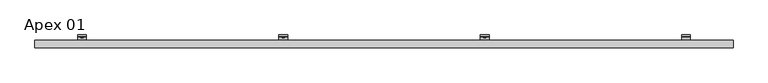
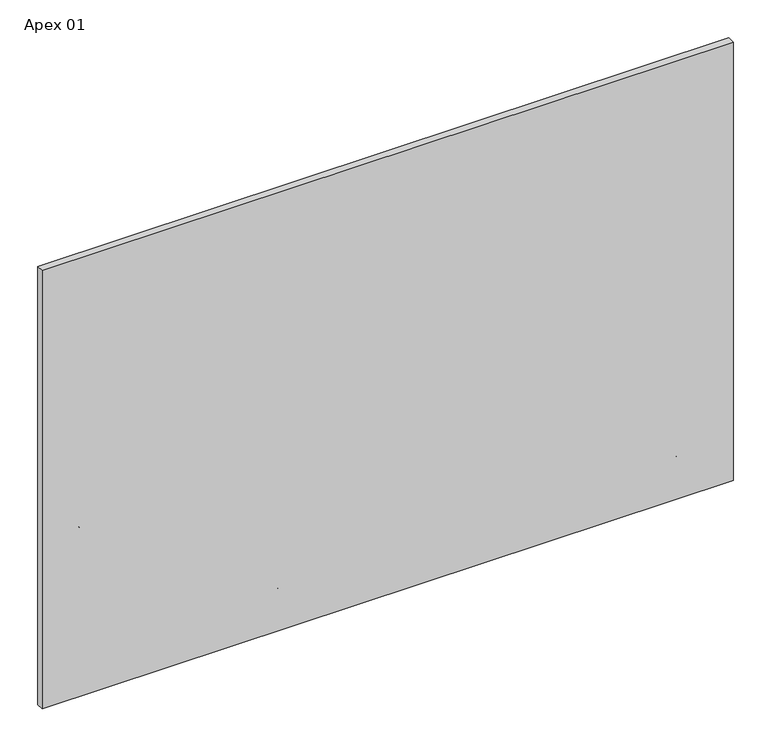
"""IFC4 building model written with IfcOpenShell, lengths in millimetres: plate geometry, Single-Panel-Perforated-Amico_Architectural : Apex 01."""

from ifc_helpers import new_model, si_unit, point, frame, frame_2d, origin, place, context, project, spatial, polyline, circle_curve, trimmed, segment, composite_curve, outline, extrude, source, transform, mapped, element, save
from ifc_brep_helpers import plane_surface, cylinder_surface, revolved_surface, advanced_brep


def apex_01_2c32b375(model_context):
    return source(origin(), model_context, "Body", "SolidModel", [
        advanced_brep(
        [(1285.875, -47.625, 742.6471875), (1285.875, -51.2819443, 734.985155), (1285.875, -89.5163624, 708.2131273), (1285.875, -92.9330442, 711.6298091), (1285.875, -54.3526876, 738.6440656), (1285.875, -52.4002, 742.6472583), (1285.875, -52.4002, 776.8398726), (1285.875, -47.625, 776.8398726), (1323.975, -47.625, 742.6471875), (1323.975, -47.625, 776.8398726), (1323.975, -52.4002, 776.8398726), (1323.975, -52.4002, 742.6472583), (1323.975, -54.3526876, 738.6440656), (1323.975, -92.9330442, 711.6298091), (1323.975, -89.5163624, 708.2131273), (1323.975, -51.2819443, 734.985155), (1311.6661889, -52.4002, 762.7946564), (1311.6661889, -52.4002, 756.4446564), (1295.4383287, -52.4002, 756.4446564), (1295.4383287, -52.4002, 762.7946564), (1311.6661889, -47.625, 756.4446564), (1311.6661889, -47.625, 762.7946564), (1295.4383287, -47.625, 762.7946564), (1295.4383287, -47.625, 756.4446564)],
        [
            (0, 1, circle_curve(frame((1285.875, -57.4802202, 742.6471875), z_axis=(-1.0, 0.0, 0.0), x_axis=(0.0, -1.0, 0.0)), 9.8552202)),
            (1, 2),
            (2, 3),
            (3, 4),
            (4, 5, circle_curve(frame((1285.875, -57.4803246, 742.6472583), z_axis=(1.0, 0.0, 0.0), x_axis=(0.0, -1.0, 0.0)), 5.0801246)),
            (5, 6),
            (6, 7),
            (7, 0),
            (8, 9),
            (9, 10),
            (10, 11),
            (11, 12, circle_curve(frame((1323.975, -57.4803246, 742.6472583), z_axis=(-1.0, 0.0, 0.0), x_axis=(0.0, -1.0, 0.0)), 5.0801246)),
            (12, 13),
            (13, 14),
            (14, 15),
            (15, 8, circle_curve(frame((1323.975, -57.4802202, 742.6471875), z_axis=(1.0, 0.0, 0.0), x_axis=(0.0, -1.0, 0.0)), 9.8552202)),
            (4, 12),
            (11, 5),
            (10, 6),
            (16, 17, circle_curve(frame((1311.6661889, -52.4002, 759.6196564), z_axis=(0.0, 1.0, 0.0), x_axis=(0.0, 0.0, -1.0)), 3.175)),
            (17, 18),
            (18, 19, circle_curve(frame((1295.4383287, -52.4002, 759.6196564), z_axis=(0.0, 1.0, 0.0), x_axis=(0.0, 0.0, -1.0)), 3.175)),
            (19, 16),
            (9, 7),
            (8, 0),
            (20, 21, circle_curve(frame((1311.6661889, -47.625, 759.6196564), z_axis=(0.0, -1.0, 0.0), x_axis=(0.0, 0.0, -1.0)), 3.175)),
            (21, 22),
            (22, 23, circle_curve(frame((1295.4383287, -47.625, 759.6196564), z_axis=(0.0, -1.0, 0.0), x_axis=(0.0, 0.0, -1.0)), 3.175)),
            (23, 20),
            (15, 1),
            (20, 17),
            (16, 21),
            (19, 22),
            (18, 23),
            (14, 2),
            (13, 3),
        ],
        [
            plane_surface(frame((1285.875, -67.3354404, 742.6471875), z_axis=(-1.0, 0.0, 0.0), x_axis=(0.0, 0.0, 1.0))),
            plane_surface(frame((1323.975, -67.3354404, 742.6471875), z_axis=(1.0, 0.0, 0.0), x_axis=(0.0, 0.0, -1.0))),
            revolved_surface(polyline([(1323.975, -62.5604492, 742.6472583), (1285.875, -62.5604492, 742.6472583)]), (1323.975, -57.4803246, 742.6472583), (1.0, 0.0, 0.0)),
            plane_surface(frame((1285.875, -52.4002, 742.6472583), z_axis=(0.0, -1.0, 0.0), x_axis=(1.0, 0.0, 0.0))),
            plane_surface(frame((1285.875, -52.4002, 776.8398726), z_axis=(0.0, 0.0, 1.0), x_axis=(1.0, 0.0, 0.0))),
            plane_surface(frame((1285.875, -47.625, 776.8398726), z_axis=(0.0, 1.0, 6.99569853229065e-12), x_axis=(1.0, 0.0, 0.0))),
            cylinder_surface(frame((1323.975, -57.4802202, 742.6471875), z_axis=(-1.0, 0.0, 0.0), x_axis=(0.0, -1.0, 0.0)), 9.8552202),
            revolved_surface(polyline([(1311.6661889, -52.4002, 756.4446564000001), (1311.6661889, -47.625, 756.4446564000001)]), (1311.6661889, -25.6669948, 759.6196564), (0.0, -1.0, 0.0)),
            plane_surface(frame((1311.6661889, -86.677982, 762.7946564), z_axis=(0.0, 0.0, -1.0), x_axis=(0.0, 1.0, 0.0))),
            revolved_surface(polyline([(1295.4383287, -52.4002, 756.4446564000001), (1295.4383287, -47.625, 756.4446564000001)]), (1295.4383287, -25.6669948, 759.6196564), (0.0, -1.0, 0.0)),
            plane_surface(frame((1295.4383287, -86.677982, 756.4446564), z_axis=(-2.7237733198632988e-11, 0.0, 1.0), x_axis=(0.0, 1.0, 0.0))),
            plane_surface(frame((1285.875, -51.2819443, 734.985155), z_axis=(0.0, 0.5735764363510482, -0.8191520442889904), x_axis=(1.0, 0.0, 0.0))),
            plane_surface(frame((1285.875, -89.5163624, 708.2131273), z_axis=(0.0, -0.7071067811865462, -0.7071067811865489), x_axis=(1.0, 0.0, 0.0))),
            plane_surface(frame((1285.875, -92.9330442, 711.6298091), z_axis=(0.0, -0.5735764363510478, 0.8191520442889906), x_axis=(1.0, 0.0, 0.0))),
        ],
        [
            (0, [[1, 2, 3, 4, 5, 6, 7, 8]]),
            (1, [[9, 10, 11, 12, 13, 14, 15, 16]]),
            (2, [[-5, 17, -12, 18]]),
            (3, [[-6, -18, -11, 19], [20, 21, 22, 23]]),
            (4, [[-7, -19, -10, 24]]),
            (5, [[-8, -24, -9, 25], [26, 27, 28, 29]]),
            (6, [[-1, -25, -16, 30]]),
            (7, [[31, -20, 32, -26]]),
            (8, [[-32, -23, 33, -27]]),
            (9, [[-33, -22, 34, -28]]),
            (10, [[-31, -29, -34, -21]]),
            (11, [[-2, -30, -15, 35]]),
            (12, [[-3, -35, -14, 36]]),
            (13, [[-4, -36, -13, -17]]),
        ],
    ),
        extrude(outline(polyline([(759.7964995, 429.9570034), (755.450787, 432.4660017), (755.450787, 437.4839983), (759.7964995, 439.9929966), (764.1422121, 437.4839983), (764.1422121, 432.4660017), (759.7964995, 429.9570034)])), frame((0.0, -58.7607779, 0.0), z_axis=(0.0, 1.0, 0.0), x_axis=(0.0, 0.0, 1.0)), (0.0, 0.0, 1.0), 11.1357779),
        extrude(outline(composite_curve([segment(trimmed(circle_curve(frame_2d((759.8898065, 434.975)), 6.35), [point((759.8898065, 441.325))], [point((759.8898065, 428.625))], False, "CARTESIAN"), True, "CONTINUOUS"), segment(trimmed(circle_curve(frame_2d((759.8898065, 434.975)), 6.35), [point((759.8898065, 428.625))], [point((759.8898065, 441.325))], False, "CARTESIAN"), True, "CONTINUOUS")], self_intersect=False)), frame((0.0, -57.0817743, 0.0), z_axis=(0.0, 1.0, 0.0), x_axis=(0.0, 0.0, 1.0)), (0.0, 0.0, 1.0), 9.4567743),
        advanced_brep(
        [(415.925, -47.625, 742.6471875), (415.925, -51.2819443, 734.985155), (415.925, -89.5163624, 708.2131273), (415.925, -92.9330442, 711.6298091), (415.925, -54.3526876, 738.6440656), (415.925, -52.4002, 742.6472583), (415.925, -52.4002, 776.8398726), (415.925, -47.625, 776.8398726), (454.025, -47.625, 742.6471875), (454.025, -47.625, 776.8398726), (454.025, -52.4002, 776.8398726), (454.025, -52.4002, 742.6472583), (454.025, -54.3526876, 738.6440656), (454.025, -92.9330442, 711.6298091), (454.025, -89.5163624, 708.2131273), (454.025, -51.2819443, 734.985155), (441.7161889, -52.4002, 762.7946564), (441.7161889, -52.4002, 756.4446564), (425.4883287, -52.4002, 756.4446564), (425.4883287, -52.4002, 762.7946564), (441.7161889, -47.625, 756.4446564), (441.7161889, -47.625, 762.7946564), (425.4883287, -47.625, 762.7946564), (425.4883287, -47.625, 756.4446564)],
        [
            (0, 1, circle_curve(frame((415.925, -57.4802202, 742.6471875), z_axis=(-1.0, 0.0, 0.0), x_axis=(0.0, -1.0, 0.0)), 9.8552202)),
            (1, 2),
            (2, 3),
            (3, 4),
            (4, 5, circle_curve(frame((415.925, -57.4803246, 742.6472583), z_axis=(1.0, 0.0, 0.0), x_axis=(0.0, -1.0, 0.0)), 5.0801246)),
            (5, 6),
            (6, 7),
            (7, 0),
            (8, 9),
            (9, 10),
            (10, 11),
            (11, 12, circle_curve(frame((454.025, -57.4803246, 742.6472583), z_axis=(-1.0, 0.0, 0.0), x_axis=(0.0, -1.0, 0.0)), 5.0801246)),
            (12, 13),
            (13, 14),
            (14, 15),
            (15, 8, circle_curve(frame((454.025, -57.4802202, 742.6471875), z_axis=(1.0, 0.0, 0.0), x_axis=(0.0, -1.0, 0.0)), 9.8552202)),
            (4, 12),
            (11, 5),
            (10, 6),
            (16, 17, circle_curve(frame((441.7161889, -52.4002, 759.6196564), z_axis=(0.0, 1.0, 0.0), x_axis=(0.0, 0.0, -1.0)), 3.175)),
            (17, 18),
            (18, 19, circle_curve(frame((425.4883287, -52.4002, 759.6196564), z_axis=(0.0, 1.0, 0.0), x_axis=(0.0, 0.0, -1.0)), 3.175)),
            (19, 16),
            (9, 7),
            (8, 0),
            (20, 21, circle_curve(frame((441.7161889, -47.625, 759.6196564), z_axis=(0.0, -1.0, 0.0), x_axis=(0.0, 0.0, -1.0)), 3.175)),
            (21, 22),
            (22, 23, circle_curve(frame((425.4883287, -47.625, 759.6196564), z_axis=(0.0, -1.0, 0.0), x_axis=(0.0, 0.0, -1.0)), 3.175)),
            (23, 20),
            (15, 1),
            (20, 17),
            (16, 21),
            (19, 22),
            (18, 23),
            (14, 2),
            (13, 3),
        ],
        [
            plane_surface(frame((415.925, -67.3354404, 742.6471875), z_axis=(-1.0, 0.0, 0.0), x_axis=(0.0, 0.0, 1.0))),
            plane_surface(frame((454.025, -67.3354404, 742.6471875), z_axis=(1.0, 0.0, 0.0), x_axis=(0.0, 0.0, -1.0))),
            revolved_surface(polyline([(454.025, -62.5604492, 742.6472583), (415.925, -62.5604492, 742.6472583)]), (454.025, -57.4803246, 742.6472583), (1.0, 0.0, 0.0)),
            plane_surface(frame((415.925, -52.4002, 742.6472583), z_axis=(0.0, -1.0, 0.0), x_axis=(1.0, 0.0, 0.0))),
            plane_surface(frame((415.925, -52.4002, 776.8398726), z_axis=(0.0, 0.0, 1.0), x_axis=(1.0, 0.0, 0.0))),
            plane_surface(frame((415.925, -47.625, 776.8398726), z_axis=(0.0, 1.0, 6.99569853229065e-12), x_axis=(1.0, 0.0, 0.0))),
            cylinder_surface(frame((454.025, -57.4802202, 742.6471875), z_axis=(-1.0, 0.0, 0.0), x_axis=(0.0, -1.0, 0.0)), 9.8552202),
            revolved_surface(polyline([(441.7161889, -52.4002, 756.4446564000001), (441.7161889, -47.625, 756.4446564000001)]), (441.7161889, -25.6669948, 759.6196564), (0.0, -1.0, 0.0)),
            plane_surface(frame((441.7161889, -86.677982, 762.7946564), z_axis=(0.0, 0.0, -1.0), x_axis=(0.0, 1.0, 0.0))),
            revolved_surface(polyline([(425.4883287, -52.4002, 756.4446564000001), (425.4883287, -47.625, 756.4446564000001)]), (425.4883287, -25.6669948, 759.6196564), (0.0, -1.0, 0.0)),
            plane_surface(frame((425.4883287, -86.677982, 756.4446564), z_axis=(-2.7237733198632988e-11, 0.0, 1.0), x_axis=(0.0, 1.0, 0.0))),
            plane_surface(frame((415.925, -51.2819443, 734.985155), z_axis=(0.0, 0.5735764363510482, -0.8191520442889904), x_axis=(1.0, 0.0, 0.0))),
            plane_surface(frame((415.925, -89.5163624, 708.2131273), z_axis=(0.0, -0.7071067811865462, -0.7071067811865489), x_axis=(1.0, 0.0, 0.0))),
            plane_surface(frame((415.925, -92.9330442, 711.6298091), z_axis=(0.0, -0.5735764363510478, 0.8191520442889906), x_axis=(1.0, 0.0, 0.0))),
        ],
        [
            (0, [[1, 2, 3, 4, 5, 6, 7, 8]]),
            (1, [[9, 10, 11, 12, 13, 14, 15, 16]]),
            (2, [[-5, 17, -12, 18]]),
            (3, [[-6, -18, -11, 19], [20, 21, 22, 23]]),
            (4, [[-7, -19, -10, 24]]),
            (5, [[-8, -24, -9, 25], [26, 27, 28, 29]]),
            (6, [[-1, -25, -16, 30]]),
            (7, [[31, -20, 32, -26]]),
            (8, [[-32, -23, 33, -27]]),
            (9, [[-33, -22, 34, -28]]),
            (10, [[-31, -29, -34, -21]]),
            (11, [[-2, -30, -15, 35]]),
            (12, [[-3, -35, -14, 36]]),
            (13, [[-4, -36, -13, -17]]),
        ],
    ),
        extrude(outline(polyline([(759.7964995, -439.9929966), (755.450787, -437.4839983), (755.450787, -432.4660017), (759.7964995, -429.9570034), (764.1422121, -432.4660017), (764.1422121, -437.4839983), (759.7964995, -439.9929966)])), frame((0.0, -58.7607779, 0.0), z_axis=(0.0, 1.0, 0.0), x_axis=(0.0, 0.0, 1.0)), (0.0, 0.0, 1.0), 11.1357779),
        extrude(outline(composite_curve([segment(trimmed(circle_curve(frame_2d((759.8898065, -434.975)), 6.35), [point((759.8898065, -428.625))], [point((759.8898065, -441.325))], False, "CARTESIAN"), True, "CONTINUOUS"), segment(trimmed(circle_curve(frame_2d((759.8898065, -434.975)), 6.35), [point((759.8898065, -441.325))], [point((759.8898065, -428.625))], False, "CARTESIAN"), True, "CONTINUOUS")], self_intersect=False)), frame((0.0, -57.0817743, 0.0), z_axis=(0.0, 1.0, 0.0), x_axis=(0.0, 0.0, 1.0)), (0.0, 0.0, 1.0), 9.4567743),
        advanced_brep(
        [(-454.025, -47.625, 742.6471875), (-454.025, -51.2819443, 734.985155), (-454.025, -89.5163624, 708.2131273), (-454.025, -92.9330442, 711.6298091), (-454.025, -54.3526876, 738.6440656), (-454.025, -52.4002, 742.6472583), (-454.025, -52.4002, 776.8398726), (-454.025, -47.625, 776.8398726), (-415.925, -47.625, 742.6471875), (-415.925, -47.625, 776.8398726), (-415.925, -52.4002, 776.8398726), (-415.925, -52.4002, 742.6472583), (-415.925, -54.3526876, 738.6440656), (-415.925, -92.9330442, 711.6298091), (-415.925, -89.5163624, 708.2131273), (-415.925, -51.2819443, 734.985155), (-428.2338111, -52.4002, 762.7946564), (-428.2338111, -52.4002, 756.4446564), (-444.4616713, -52.4002, 756.4446564), (-444.4616713, -52.4002, 762.7946564), (-428.2338111, -47.625, 756.4446564), (-428.2338111, -47.625, 762.7946564), (-444.4616713, -47.625, 762.7946564), (-444.4616713, -47.625, 756.4446564)],
        [
            (0, 1, circle_curve(frame((-454.025, -57.4802202, 742.6471875), z_axis=(-1.0, 0.0, 0.0), x_axis=(0.0, -1.0, 0.0)), 9.8552202)),
            (1, 2),
            (2, 3),
            (3, 4),
            (4, 5, circle_curve(frame((-454.025, -57.4803246, 742.6472583), z_axis=(1.0, 0.0, 0.0), x_axis=(0.0, -1.0, 0.0)), 5.0801246)),
            (5, 6),
            (6, 7),
            (7, 0),
            (8, 9),
            (9, 10),
            (10, 11),
            (11, 12, circle_curve(frame((-415.925, -57.4803246, 742.6472583), z_axis=(-1.0, 0.0, 0.0), x_axis=(0.0, -1.0, 0.0)), 5.0801246)),
            (12, 13),
            (13, 14),
            (14, 15),
            (15, 8, circle_curve(frame((-415.925, -57.4802202, 742.6471875), z_axis=(1.0, 0.0, 0.0), x_axis=(0.0, -1.0, 0.0)), 9.8552202)),
            (4, 12),
            (11, 5),
            (10, 6),
            (16, 17, circle_curve(frame((-428.2338111, -52.4002, 759.6196564), z_axis=(0.0, 1.0, 0.0), x_axis=(0.0, 0.0, -1.0)), 3.175)),
            (17, 18),
            (18, 19, circle_curve(frame((-444.4616713, -52.4002, 759.6196564), z_axis=(0.0, 1.0, 0.0), x_axis=(0.0, 0.0, -1.0)), 3.175)),
            (19, 16),
            (9, 7),
            (8, 0),
            (20, 21, circle_curve(frame((-428.2338111, -47.625, 759.6196564), z_axis=(0.0, -1.0, 0.0), x_axis=(0.0, 0.0, -1.0)), 3.175)),
            (21, 22),
            (22, 23, circle_curve(frame((-444.4616713, -47.625, 759.6196564), z_axis=(0.0, -1.0, 0.0), x_axis=(0.0, 0.0, -1.0)), 3.175)),
            (23, 20),
            (15, 1),
            (20, 17),
            (16, 21),
            (19, 22),
            (18, 23),
            (14, 2),
            (13, 3),
        ],
        [
            plane_surface(frame((-454.025, -67.3354404, 742.6471875), z_axis=(-1.0, 0.0, 0.0), x_axis=(0.0, 0.0, 1.0))),
            plane_surface(frame((-415.925, -67.3354404, 742.6471875), z_axis=(1.0, 0.0, 0.0), x_axis=(0.0, 0.0, -1.0))),
            revolved_surface(polyline([(-415.925, -62.5604492, 742.6472583), (-454.025, -62.5604492, 742.6472583)]), (-415.925, -57.4803246, 742.6472583), (1.0, 0.0, 0.0)),
            plane_surface(frame((-454.025, -52.4002, 742.6472583), z_axis=(0.0, -1.0, 0.0), x_axis=(1.0, 0.0, 0.0))),
            plane_surface(frame((-454.025, -52.4002, 776.8398726), z_axis=(0.0, 0.0, 1.0), x_axis=(1.0, 0.0, 0.0))),
            plane_surface(frame((-454.025, -47.625, 776.8398726), z_axis=(0.0, 1.0, 6.99569853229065e-12), x_axis=(1.0, 0.0, 0.0))),
            cylinder_surface(frame((-415.925, -57.4802202, 742.6471875), z_axis=(-1.0, 0.0, 0.0), x_axis=(0.0, -1.0, 0.0)), 9.8552202),
            revolved_surface(polyline([(-428.2338111, -52.4002, 756.4446564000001), (-428.2338111, -47.625, 756.4446564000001)]), (-428.2338111, -25.6669948, 759.6196564), (0.0, -1.0, 0.0)),
            plane_surface(frame((-428.2338111, -86.677982, 762.7946564), z_axis=(0.0, 0.0, -1.0), x_axis=(0.0, 1.0, 0.0))),
            revolved_surface(polyline([(-444.4616713, -52.4002, 756.4446564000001), (-444.4616713, -47.625, 756.4446564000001)]), (-444.4616713, -25.6669948, 759.6196564), (0.0, -1.0, 0.0)),
            plane_surface(frame((-444.4616713, -86.677982, 756.4446564), z_axis=(-2.7237733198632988e-11, 0.0, 1.0), x_axis=(0.0, 1.0, 0.0))),
            plane_surface(frame((-454.025, -51.2819443, 734.985155), z_axis=(0.0, 0.5735764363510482, -0.8191520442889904), x_axis=(1.0, 0.0, 0.0))),
            plane_surface(frame((-454.025, -89.5163624, 708.2131273), z_axis=(0.0, -0.7071067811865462, -0.7071067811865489), x_axis=(1.0, 0.0, 0.0))),
            plane_surface(frame((-454.025, -92.9330442, 711.6298091), z_axis=(0.0, -0.5735764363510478, 0.8191520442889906), x_axis=(1.0, 0.0, 0.0))),
        ],
        [
            (0, [[1, 2, 3, 4, 5, 6, 7, 8]]),
            (1, [[9, 10, 11, 12, 13, 14, 15, 16]]),
            (2, [[-5, 17, -12, 18]]),
            (3, [[-6, -18, -11, 19], [20, 21, 22, 23]]),
            (4, [[-7, -19, -10, 24]]),
            (5, [[-8, -24, -9, 25], [26, 27, 28, 29]]),
            (6, [[-1, -25, -16, 30]]),
            (7, [[31, -20, 32, -26]]),
            (8, [[-32, -23, 33, -27]]),
            (9, [[-33, -22, 34, -28]]),
            (10, [[-31, -29, -34, -21]]),
            (11, [[-2, -30, -15, 35]]),
            (12, [[-3, -35, -14, 36]]),
            (13, [[-4, -36, -13, -17]]),
        ],
    ),
        extrude(outline(polyline([(759.7964995, -1309.9429966), (755.450787, -1307.4339983), (755.450787, -1302.4160017), (759.7964995, -1299.9070034), (764.1422121, -1302.4160017), (764.1422121, -1307.4339983), (759.7964995, -1309.9429966)])), frame((0.0, -58.7607779, 0.0), z_axis=(0.0, 1.0, 0.0), x_axis=(0.0, 0.0, 1.0)), (0.0, 0.0, 1.0), 11.1357779),
        extrude(outline(composite_curve([segment(trimmed(circle_curve(frame_2d((759.8898065, -1304.925)), 6.35), [point((759.8898065, -1298.575))], [point((759.8898065, -1311.275))], False, "CARTESIAN"), True, "CONTINUOUS"), segment(trimmed(circle_curve(frame_2d((759.8898065, -1304.925)), 6.35), [point((759.8898065, -1311.275))], [point((759.8898065, -1298.575))], False, "CARTESIAN"), True, "CONTINUOUS")], self_intersect=False)), frame((0.0, -57.0817743, 0.0), z_axis=(0.0, 1.0, 0.0), x_axis=(0.0, 0.0, 1.0)), (0.0, 0.0, 1.0), 9.4567743),
        advanced_brep(
        [(-1323.975, -47.625, 742.6471875), (-1323.975, -51.2819443, 734.985155), (-1323.975, -89.5163624, 708.2131273), (-1323.975, -92.9330442, 711.6298091), (-1323.975, -54.3526876, 738.6440656), (-1323.975, -52.4002, 742.6472583), (-1323.975, -52.4002, 776.8398726), (-1323.975, -47.625, 776.8398726), (-1285.875, -47.625, 742.6471875), (-1285.875, -47.625, 776.8398726), (-1285.875, -52.4002, 776.8398726), (-1285.875, -52.4002, 742.6472583), (-1285.875, -54.3526876, 738.6440656), (-1285.875, -92.9330442, 711.6298091), (-1285.875, -89.5163624, 708.2131273), (-1285.875, -51.2819443, 734.985155), (-1298.1838111, -52.4002, 762.7946564), (-1298.1838111, -52.4002, 756.4446564), (-1314.4116713, -52.4002, 756.4446564), (-1314.4116713, -52.4002, 762.7946564), (-1298.1838111, -47.625, 756.4446564), (-1298.1838111, -47.625, 762.7946564), (-1314.4116713, -47.625, 762.7946564), (-1314.4116713, -47.625, 756.4446564)],
        [
            (0, 1, circle_curve(frame((-1323.975, -57.4802202, 742.6471875), z_axis=(-1.0, 0.0, 0.0), x_axis=(0.0, -1.0, 0.0)), 9.8552202)),
            (1, 2),
            (2, 3),
            (3, 4),
            (4, 5, circle_curve(frame((-1323.975, -57.4803246, 742.6472583), z_axis=(1.0, 0.0, 0.0), x_axis=(0.0, -1.0, 0.0)), 5.0801246)),
            (5, 6),
            (6, 7),
            (7, 0),
            (8, 9),
            (9, 10),
            (10, 11),
            (11, 12, circle_curve(frame((-1285.875, -57.4803246, 742.6472583), z_axis=(-1.0, 0.0, 0.0), x_axis=(0.0, -1.0, 0.0)), 5.0801246)),
            (12, 13),
            (13, 14),
            (14, 15),
            (15, 8, circle_curve(frame((-1285.875, -57.4802202, 742.6471875), z_axis=(1.0, 0.0, 0.0), x_axis=(0.0, -1.0, 0.0)), 9.8552202)),
            (4, 12),
            (11, 5),
            (10, 6),
            (16, 17, circle_curve(frame((-1298.1838111, -52.4002, 759.6196564), z_axis=(0.0, 1.0, 0.0), x_axis=(0.0, 0.0, -1.0)), 3.175)),
            (17, 18),
            (18, 19, circle_curve(frame((-1314.4116713, -52.4002, 759.6196564), z_axis=(0.0, 1.0, 0.0), x_axis=(0.0, 0.0, -1.0)), 3.175)),
            (19, 16),
            (9, 7),
            (8, 0),
            (20, 21, circle_curve(frame((-1298.1838111, -47.625, 759.6196564), z_axis=(0.0, -1.0, 0.0), x_axis=(0.0, 0.0, -1.0)), 3.175)),
            (21, 22),
            (22, 23, circle_curve(frame((-1314.4116713, -47.625, 759.6196564), z_axis=(0.0, -1.0, 0.0), x_axis=(0.0, 0.0, -1.0)), 3.175)),
            (23, 20),
            (15, 1),
            (20, 17),
            (16, 21),
            (19, 22),
            (18, 23),
            (14, 2),
            (13, 3),
        ],
        [
            plane_surface(frame((-1323.975, -67.3354404, 742.6471875), z_axis=(-1.0, 0.0, 0.0), x_axis=(0.0, 0.0, 1.0))),
            plane_surface(frame((-1285.875, -67.3354404, 742.6471875), z_axis=(1.0, 0.0, 0.0), x_axis=(0.0, 0.0, -1.0))),
            revolved_surface(polyline([(-1285.875, -62.5604492, 742.6472583), (-1323.975, -62.5604492, 742.6472583)]), (-1285.875, -57.4803246, 742.6472583), (1.0, 0.0, 0.0)),
            plane_surface(frame((-1323.975, -52.4002, 742.6472583), z_axis=(0.0, -1.0, 0.0), x_axis=(1.0, 0.0, 0.0))),
            plane_surface(frame((-1323.975, -52.4002, 776.8398726), z_axis=(0.0, 0.0, 1.0), x_axis=(1.0, 0.0, 0.0))),
            plane_surface(frame((-1323.975, -47.625, 776.8398726), z_axis=(0.0, 1.0, 6.99569853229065e-12), x_axis=(1.0, 0.0, 0.0))),
            cylinder_surface(frame((-1285.875, -57.4802202, 742.6471875), z_axis=(-1.0, 0.0, 0.0), x_axis=(0.0, -1.0, 0.0)), 9.8552202),
            revolved_surface(polyline([(-1298.1838111, -52.4002, 756.4446564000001), (-1298.1838111, -47.625, 756.4446564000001)]), (-1298.1838111, -25.6669948, 759.6196564), (0.0, -1.0, 0.0)),
            plane_surface(frame((-1298.1838111, -86.677982, 762.7946564), z_axis=(0.0, 0.0, -1.0), x_axis=(0.0, 1.0, 0.0))),
            revolved_surface(polyline([(-1314.4116713, -52.4002, 756.4446564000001), (-1314.4116713, -47.625, 756.4446564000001)]), (-1314.4116713, -25.6669948, 759.6196564), (0.0, -1.0, 0.0)),
            plane_surface(frame((-1314.4116713, -86.677982, 756.4446564), z_axis=(-2.7237733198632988e-11, 0.0, 1.0), x_axis=(0.0, 1.0, 0.0))),
            plane_surface(frame((-1323.975, -51.2819443, 734.985155), z_axis=(0.0, 0.5735764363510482, -0.8191520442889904), x_axis=(1.0, 0.0, 0.0))),
            plane_surface(frame((-1323.975, -89.5163624, 708.2131273), z_axis=(0.0, -0.7071067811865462, -0.7071067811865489), x_axis=(1.0, 0.0, 0.0))),
            plane_surface(frame((-1323.975, -92.9330442, 711.6298091), z_axis=(0.0, -0.5735764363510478, 0.8191520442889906), x_axis=(1.0, 0.0, 0.0))),
        ],
        [
            (0, [[1, 2, 3, 4, 5, 6, 7, 8]]),
            (1, [[9, 10, 11, 12, 13, 14, 15, 16]]),
            (2, [[-5, 17, -12, 18]]),
            (3, [[-6, -18, -11, 19], [20, 21, 22, 23]]),
            (4, [[-7, -19, -10, 24]]),
            (5, [[-8, -24, -9, 25], [26, 27, 28, 29]]),
            (6, [[-1, -25, -16, 30]]),
            (7, [[31, -20, 32, -26]]),
            (8, [[-32, -23, 33, -27]]),
            (9, [[-33, -22, 34, -28]]),
            (10, [[-31, -29, -34, -21]]),
            (11, [[-2, -30, -15, 35]]),
            (12, [[-3, -35, -14, 36]]),
            (13, [[-4, -36, -13, -17]]),
        ],
    ),
        extrude(outline(polyline([(169.8795323, 1299.9070034), (165.5338197, 1302.4160017), (165.5338197, 1307.4339983), (169.8795323, 1309.9429966), (174.2252448, 1307.4339983), (174.2252448, 1302.4160017), (169.8795323, 1299.9070034)])), frame((0.0, -58.7607779, 0.0), z_axis=(0.0, 1.0, 0.0), x_axis=(0.0, 0.0, 1.0)), (0.0, 0.0, 1.0), 11.1357779),
        extrude(outline(composite_curve([segment(trimmed(circle_curve(frame_2d((169.9728392, 1304.925)), 6.35), [point((169.9728392, 1311.275))], [point((169.9728392, 1298.575))], False, "CARTESIAN"), True, "CONTINUOUS"), segment(trimmed(circle_curve(frame_2d((169.9728392, 1304.925)), 6.35), [point((169.9728392, 1298.575))], [point((169.9728392, 1311.275))], False, "CARTESIAN"), True, "CONTINUOUS")], self_intersect=False)), frame((0.0, -57.0817743, 0.0), z_axis=(0.0, 1.0, 0.0), x_axis=(0.0, 0.0, 1.0)), (0.0, 0.0, 1.0), 9.4567743),
        advanced_brep(
        [(1285.875, -47.625, 152.7302202), (1285.875, -51.2819443, 145.0681877), (1285.875, -89.5163624, 118.29616), (1285.875, -92.9330442, 121.7128418), (1285.875, -54.3526876, 148.7270983), (1285.875, -52.4002, 152.7302911), (1285.875, -52.4002, 186.9229053), (1285.875, -47.625, 186.9229053), (1323.975, -47.625, 152.7302202), (1323.975, -47.625, 186.9229053), (1323.975, -52.4002, 186.9229053), (1323.975, -52.4002, 152.7302911), (1323.975, -54.3526876, 148.7270983), (1323.975, -92.9330442, 121.7128418), (1323.975, -89.5163624, 118.29616), (1323.975, -51.2819443, 145.0681877), (1311.6661889, -52.4002, 172.8776891), (1311.6661889, -52.4002, 166.5276891), (1295.4383287, -52.4002, 166.5276891), (1295.4383287, -52.4002, 172.8776891), (1311.6661889, -47.625, 166.5276891), (1311.6661889, -47.625, 172.8776891), (1295.4383287, -47.625, 172.8776891), (1295.4383287, -47.625, 166.5276891)],
        [
            (0, 1, circle_curve(frame((1285.875, -57.4802202, 152.7302202), z_axis=(-1.0, 0.0, 0.0), x_axis=(0.0, -1.0, 0.0)), 9.8552202)),
            (1, 2),
            (2, 3),
            (3, 4),
            (4, 5, circle_curve(frame((1285.875, -57.4803246, 152.7302911), z_axis=(1.0, 0.0, 0.0), x_axis=(0.0, -1.0, 0.0)), 5.0801246)),
            (5, 6),
            (6, 7),
            (7, 0),
            (8, 9),
            (9, 10),
            (10, 11),
            (11, 12, circle_curve(frame((1323.975, -57.4803246, 152.7302911), z_axis=(-1.0, 0.0, 0.0), x_axis=(0.0, -1.0, 0.0)), 5.0801246)),
            (12, 13),
            (13, 14),
            (14, 15),
            (15, 8, circle_curve(frame((1323.975, -57.4802202, 152.7302202), z_axis=(1.0, 0.0, 0.0), x_axis=(0.0, -1.0, 0.0)), 9.8552202)),
            (4, 12),
            (11, 5),
            (10, 6),
            (16, 17, circle_curve(frame((1311.6661889, -52.4002, 169.7026891), z_axis=(0.0, 1.0, 0.0), x_axis=(0.0, 0.0, -1.0)), 3.175)),
            (17, 18),
            (18, 19, circle_curve(frame((1295.4383287, -52.4002, 169.7026891), z_axis=(0.0, 1.0, 0.0), x_axis=(0.0, 0.0, -1.0)), 3.175)),
            (19, 16),
            (9, 7),
            (8, 0),
            (20, 21, circle_curve(frame((1311.6661889, -47.625, 169.7026891), z_axis=(0.0, -1.0, 0.0), x_axis=(0.0, 0.0, -1.0)), 3.175)),
            (21, 22),
            (22, 23, circle_curve(frame((1295.4383287, -47.625, 169.7026891), z_axis=(0.0, -1.0, 0.0), x_axis=(0.0, 0.0, -1.0)), 3.175)),
            (23, 20),
            (15, 1),
            (20, 17),
            (16, 21),
            (19, 22),
            (18, 23),
            (14, 2),
            (13, 3),
        ],
        [
            plane_surface(frame((1285.875, -67.3354404, 152.7302202), z_axis=(-1.0, 0.0, 0.0), x_axis=(0.0, 0.0, 1.0))),
            plane_surface(frame((1323.975, -67.3354404, 152.7302202), z_axis=(1.0, 0.0, 0.0), x_axis=(0.0, 0.0, -1.0))),
            revolved_surface(polyline([(1323.975, -62.5604492, 152.7302911), (1285.875, -62.5604492, 152.7302911)]), (1323.975, -57.4803246, 152.7302911), (1.0, 0.0, 0.0)),
            plane_surface(frame((1285.875, -52.4002, 152.7302911), z_axis=(0.0, -1.0, 0.0), x_axis=(1.0, 0.0, 0.0))),
            plane_surface(frame((1285.875, -52.4002, 186.9229053), z_axis=(0.0, 0.0, 1.0), x_axis=(1.0, 0.0, 0.0))),
            plane_surface(frame((1285.875, -47.625, 186.9229053), z_axis=(0.0, 1.0, 6.99569853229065e-12), x_axis=(1.0, 0.0, 0.0))),
            cylinder_surface(frame((1323.975, -57.4802202, 152.7302202), z_axis=(-1.0, 0.0, 0.0), x_axis=(0.0, -1.0, 0.0)), 9.8552202),
            revolved_surface(polyline([(1311.6661889, -52.4002, 166.52768909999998), (1311.6661889, -47.625, 166.52768909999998)]), (1311.6661889, -25.6669948, 169.7026891), (0.0, -1.0, 0.0)),
            plane_surface(frame((1311.6661889, -86.677982, 172.8776891), z_axis=(0.0, 0.0, -1.0), x_axis=(0.0, 1.0, 0.0))),
            revolved_surface(polyline([(1295.4383287, -52.4002, 166.52768909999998), (1295.4383287, -47.625, 166.52768909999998)]), (1295.4383287, -25.6669948, 169.7026891), (0.0, -1.0, 0.0)),
            plane_surface(frame((1295.4383287, -86.677982, 166.5276891), z_axis=(-2.723774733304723e-11, 0.0, 1.0), x_axis=(0.0, 1.0, 0.0))),
            plane_surface(frame((1285.875, -51.2819443, 145.0681877), z_axis=(0.0, 0.5735764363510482, -0.8191520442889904), x_axis=(1.0, 0.0, 0.0))),
            plane_surface(frame((1285.875, -89.5163624, 118.29616), z_axis=(0.0, -0.7071067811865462, -0.7071067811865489), x_axis=(1.0, 0.0, 0.0))),
            plane_surface(frame((1285.875, -92.9330442, 121.7128418), z_axis=(0.0, -0.5735764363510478, 0.8191520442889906), x_axis=(1.0, 0.0, 0.0))),
        ],
        [
            (0, [[1, 2, 3, 4, 5, 6, 7, 8]]),
            (1, [[9, 10, 11, 12, 13, 14, 15, 16]]),
            (2, [[-5, 17, -12, 18]]),
            (3, [[-6, -18, -11, 19], [20, 21, 22, 23]]),
            (4, [[-7, -19, -10, 24]]),
            (5, [[-8, -24, -9, 25], [26, 27, 28, 29]]),
            (6, [[-1, -25, -16, 30]]),
            (7, [[31, -20, 32, -26]]),
            (8, [[-32, -23, 33, -27]]),
            (9, [[-33, -22, 34, -28]]),
            (10, [[-31, -29, -34, -21]]),
            (11, [[-2, -30, -15, 35]]),
            (12, [[-3, -35, -14, 36]]),
            (13, [[-4, -36, -13, -17]]),
        ],
    ),
        extrude(outline(polyline([(169.8795323, 429.9570034), (165.5338197, 432.4660017), (165.5338197, 437.4839983), (169.8795323, 439.9929966), (174.2252448, 437.4839983), (174.2252448, 432.4660017), (169.8795323, 429.9570034)])), frame((0.0, -58.7607779, 0.0), z_axis=(0.0, 1.0, 0.0), x_axis=(0.0, 0.0, 1.0)), (0.0, 0.0, 1.0), 11.1357779),
        extrude(outline(composite_curve([segment(trimmed(circle_curve(frame_2d((169.9728392, 434.975)), 6.35), [point((169.9728392, 441.325))], [point((169.9728392, 428.625))], False, "CARTESIAN"), True, "CONTINUOUS"), segment(trimmed(circle_curve(frame_2d((169.9728392, 434.975)), 6.35), [point((169.9728392, 428.625))], [point((169.9728392, 441.325))], False, "CARTESIAN"), True, "CONTINUOUS")], self_intersect=False)), frame((0.0, -57.0817743, 0.0), z_axis=(0.0, 1.0, 0.0), x_axis=(0.0, 0.0, 1.0)), (0.0, 0.0, 1.0), 9.4567743),
        advanced_brep(
        [(415.925, -47.625, 152.7302202), (415.925, -51.2819443, 145.0681877), (415.925, -89.5163624, 118.29616), (415.925, -92.9330442, 121.7128418), (415.925, -54.3526876, 148.7270983), (415.925, -52.4002, 152.7302911), (415.925, -52.4002, 186.9229053), (415.925, -47.625, 186.9229053), (454.025, -47.625, 152.7302202), (454.025, -47.625, 186.9229053), (454.025, -52.4002, 186.9229053), (454.025, -52.4002, 152.7302911), (454.025, -54.3526876, 148.7270983), (454.025, -92.9330442, 121.7128418), (454.025, -89.5163624, 118.29616), (454.025, -51.2819443, 145.0681877), (441.7161889, -52.4002, 172.8776891), (441.7161889, -52.4002, 166.5276891), (425.4883287, -52.4002, 166.5276891), (425.4883287, -52.4002, 172.8776891), (441.7161889, -47.625, 166.5276891), (441.7161889, -47.625, 172.8776891), (425.4883287, -47.625, 172.8776891), (425.4883287, -47.625, 166.5276891)],
        [
            (0, 1, circle_curve(frame((415.925, -57.4802202, 152.7302202), z_axis=(-1.0, 0.0, 0.0), x_axis=(0.0, -1.0, 0.0)), 9.8552202)),
            (1, 2),
            (2, 3),
            (3, 4),
            (4, 5, circle_curve(frame((415.925, -57.4803246, 152.7302911), z_axis=(1.0, 0.0, 0.0), x_axis=(0.0, -1.0, 0.0)), 5.0801246)),
            (5, 6),
            (6, 7),
            (7, 0),
            (8, 9),
            (9, 10),
            (10, 11),
            (11, 12, circle_curve(frame((454.025, -57.4803246, 152.7302911), z_axis=(-1.0, 0.0, 0.0), x_axis=(0.0, -1.0, 0.0)), 5.0801246)),
            (12, 13),
            (13, 14),
            (14, 15),
            (15, 8, circle_curve(frame((454.025, -57.4802202, 152.7302202), z_axis=(1.0, 0.0, 0.0), x_axis=(0.0, -1.0, 0.0)), 9.8552202)),
            (4, 12),
            (11, 5),
            (10, 6),
            (16, 17, circle_curve(frame((441.7161889, -52.4002, 169.7026891), z_axis=(0.0, 1.0, 0.0), x_axis=(0.0, 0.0, -1.0)), 3.175)),
            (17, 18),
            (18, 19, circle_curve(frame((425.4883287, -52.4002, 169.7026891), z_axis=(0.0, 1.0, 0.0), x_axis=(0.0, 0.0, -1.0)), 3.175)),
            (19, 16),
            (9, 7),
            (8, 0),
            (20, 21, circle_curve(frame((441.7161889, -47.625, 169.7026891), z_axis=(0.0, -1.0, 0.0), x_axis=(0.0, 0.0, -1.0)), 3.175)),
            (21, 22),
            (22, 23, circle_curve(frame((425.4883287, -47.625, 169.7026891), z_axis=(0.0, -1.0, 0.0), x_axis=(0.0, 0.0, -1.0)), 3.175)),
            (23, 20),
            (15, 1),
            (20, 17),
            (16, 21),
            (19, 22),
            (18, 23),
            (14, 2),
            (13, 3),
        ],
        [
            plane_surface(frame((415.925, -67.3354404, 152.7302202), z_axis=(-1.0, 0.0, 0.0), x_axis=(0.0, 0.0, 1.0))),
            plane_surface(frame((454.025, -67.3354404, 152.7302202), z_axis=(1.0, 0.0, 0.0), x_axis=(0.0, 0.0, -1.0))),
            revolved_surface(polyline([(454.025, -62.5604492, 152.7302911), (415.925, -62.5604492, 152.7302911)]), (454.025, -57.4803246, 152.7302911), (1.0, 0.0, 0.0)),
            plane_surface(frame((415.925, -52.4002, 152.7302911), z_axis=(0.0, -1.0, 0.0), x_axis=(1.0, 0.0, 0.0))),
            plane_surface(frame((415.925, -52.4002, 186.9229053), z_axis=(0.0, 0.0, 1.0), x_axis=(1.0, 0.0, 0.0))),
            plane_surface(frame((415.925, -47.625, 186.9229053), z_axis=(0.0, 1.0, 6.99569853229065e-12), x_axis=(1.0, 0.0, 0.0))),
            cylinder_surface(frame((454.025, -57.4802202, 152.7302202), z_axis=(-1.0, 0.0, 0.0), x_axis=(0.0, -1.0, 0.0)), 9.8552202),
            revolved_surface(polyline([(441.7161889, -52.4002, 166.52768909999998), (441.7161889, -47.625, 166.52768909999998)]), (441.7161889, -25.6669948, 169.7026891), (0.0, -1.0, 0.0)),
            plane_surface(frame((441.7161889, -86.677982, 172.8776891), z_axis=(0.0, 0.0, -1.0), x_axis=(0.0, 1.0, 0.0))),
            revolved_surface(polyline([(425.4883287, -52.4002, 166.52768909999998), (425.4883287, -47.625, 166.52768909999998)]), (425.4883287, -25.6669948, 169.7026891), (0.0, -1.0, 0.0)),
            plane_surface(frame((425.4883287, -86.677982, 166.5276891), z_axis=(-2.723774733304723e-11, 0.0, 1.0), x_axis=(0.0, 1.0, 0.0))),
            plane_surface(frame((415.925, -51.2819443, 145.0681877), z_axis=(0.0, 0.5735764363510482, -0.8191520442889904), x_axis=(1.0, 0.0, 0.0))),
            plane_surface(frame((415.925, -89.5163624, 118.29616), z_axis=(0.0, -0.7071067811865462, -0.7071067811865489), x_axis=(1.0, 0.0, 0.0))),
            plane_surface(frame((415.925, -92.9330442, 121.7128418), z_axis=(0.0, -0.5735764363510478, 0.8191520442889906), x_axis=(1.0, 0.0, 0.0))),
        ],
        [
            (0, [[1, 2, 3, 4, 5, 6, 7, 8]]),
            (1, [[9, 10, 11, 12, 13, 14, 15, 16]]),
            (2, [[-5, 17, -12, 18]]),
            (3, [[-6, -18, -11, 19], [20, 21, 22, 23]]),
            (4, [[-7, -19, -10, 24]]),
            (5, [[-8, -24, -9, 25], [26, 27, 28, 29]]),
            (6, [[-1, -25, -16, 30]]),
            (7, [[31, -20, 32, -26]]),
            (8, [[-32, -23, 33, -27]]),
            (9, [[-33, -22, 34, -28]]),
            (10, [[-31, -29, -34, -21]]),
            (11, [[-2, -30, -15, 35]]),
            (12, [[-3, -35, -14, 36]]),
            (13, [[-4, -36, -13, -17]]),
        ],
    ),
        extrude(outline(polyline([(169.8795323, -439.9929966), (165.5338197, -437.4839983), (165.5338197, -432.4660017), (169.8795323, -429.9570034), (174.2252448, -432.4660017), (174.2252448, -437.4839983), (169.8795323, -439.9929966)])), frame((0.0, -58.7607779, 0.0), z_axis=(0.0, 1.0, 0.0), x_axis=(0.0, 0.0, 1.0)), (0.0, 0.0, 1.0), 11.1357779),
        extrude(outline(composite_curve([segment(trimmed(circle_curve(frame_2d((169.9728392, -434.975)), 6.35), [point((169.9728392, -428.625))], [point((169.9728392, -441.325))], False, "CARTESIAN"), True, "CONTINUOUS"), segment(trimmed(circle_curve(frame_2d((169.9728392, -434.975)), 6.35), [point((169.9728392, -441.325))], [point((169.9728392, -428.625))], False, "CARTESIAN"), True, "CONTINUOUS")], self_intersect=False)), frame((0.0, -57.0817743, 0.0), z_axis=(0.0, 1.0, 0.0), x_axis=(0.0, 0.0, 1.0)), (0.0, 0.0, 1.0), 9.4567743),
        advanced_brep(
        [(-454.025, -47.625, 152.7302202), (-454.025, -51.2819443, 145.0681877), (-454.025, -89.5163624, 118.29616), (-454.025, -92.9330442, 121.7128418), (-454.025, -54.3526876, 148.7270983), (-454.025, -52.4002, 152.7302911), (-454.025, -52.4002, 186.9229053), (-454.025, -47.625, 186.9229053), (-415.925, -47.625, 152.7302202), (-415.925, -47.625, 186.9229053), (-415.925, -52.4002, 186.9229053), (-415.925, -52.4002, 152.7302911), (-415.925, -54.3526876, 148.7270983), (-415.925, -92.9330442, 121.7128418), (-415.925, -89.5163624, 118.29616), (-415.925, -51.2819443, 145.0681877), (-428.2338111, -52.4002, 172.8776891), (-428.2338111, -52.4002, 166.5276891), (-444.4616713, -52.4002, 166.5276891), (-444.4616713, -52.4002, 172.8776891), (-428.2338111, -47.625, 166.5276891), (-428.2338111, -47.625, 172.8776891), (-444.4616713, -47.625, 172.8776891), (-444.4616713, -47.625, 166.5276891)],
        [
            (0, 1, circle_curve(frame((-454.025, -57.4802202, 152.7302202), z_axis=(-1.0, 0.0, 0.0), x_axis=(0.0, -1.0, 0.0)), 9.8552202)),
            (1, 2),
            (2, 3),
            (3, 4),
            (4, 5, circle_curve(frame((-454.025, -57.4803246, 152.7302911), z_axis=(1.0, 0.0, 0.0), x_axis=(0.0, -1.0, 0.0)), 5.0801246)),
            (5, 6),
            (6, 7),
            (7, 0),
            (8, 9),
            (9, 10),
            (10, 11),
            (11, 12, circle_curve(frame((-415.925, -57.4803246, 152.7302911), z_axis=(-1.0, 0.0, 0.0), x_axis=(0.0, -1.0, 0.0)), 5.0801246)),
            (12, 13),
            (13, 14),
            (14, 15),
            (15, 8, circle_curve(frame((-415.925, -57.4802202, 152.7302202), z_axis=(1.0, 0.0, 0.0), x_axis=(0.0, -1.0, 0.0)), 9.8552202)),
            (4, 12),
            (11, 5),
            (10, 6),
            (16, 17, circle_curve(frame((-428.2338111, -52.4002, 169.7026891), z_axis=(0.0, 1.0, 0.0), x_axis=(0.0, 0.0, -1.0)), 3.175)),
            (17, 18),
            (18, 19, circle_curve(frame((-444.4616713, -52.4002, 169.7026891), z_axis=(0.0, 1.0, 0.0), x_axis=(0.0, 0.0, -1.0)), 3.175)),
            (19, 16),
            (9, 7),
            (8, 0),
            (20, 21, circle_curve(frame((-428.2338111, -47.625, 169.7026891), z_axis=(0.0, -1.0, 0.0), x_axis=(0.0, 0.0, -1.0)), 3.175)),
            (21, 22),
            (22, 23, circle_curve(frame((-444.4616713, -47.625, 169.7026891), z_axis=(0.0, -1.0, 0.0), x_axis=(0.0, 0.0, -1.0)), 3.175)),
            (23, 20),
            (15, 1),
            (20, 17),
            (16, 21),
            (19, 22),
            (18, 23),
            (14, 2),
            (13, 3),
        ],
        [
            plane_surface(frame((-454.025, -67.3354404, 152.7302202), z_axis=(-1.0, 0.0, 0.0), x_axis=(0.0, 0.0, 1.0))),
            plane_surface(frame((-415.925, -67.3354404, 152.7302202), z_axis=(1.0, 0.0, 0.0), x_axis=(0.0, 0.0, -1.0))),
            revolved_surface(polyline([(-415.925, -62.5604492, 152.7302911), (-454.025, -62.5604492, 152.7302911)]), (-415.925, -57.4803246, 152.7302911), (1.0, 0.0, 0.0)),
            plane_surface(frame((-454.025, -52.4002, 152.7302911), z_axis=(0.0, -1.0, 0.0), x_axis=(1.0, 0.0, 0.0))),
            plane_surface(frame((-454.025, -52.4002, 186.9229053), z_axis=(0.0, 0.0, 1.0), x_axis=(1.0, 0.0, 0.0))),
            plane_surface(frame((-454.025, -47.625, 186.9229053), z_axis=(0.0, 1.0, 6.99569853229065e-12), x_axis=(1.0, 0.0, 0.0))),
            cylinder_surface(frame((-415.925, -57.4802202, 152.7302202), z_axis=(-1.0, 0.0, 0.0), x_axis=(0.0, -1.0, 0.0)), 9.8552202),
            revolved_surface(polyline([(-428.2338111, -52.4002, 166.52768909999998), (-428.2338111, -47.625, 166.52768909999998)]), (-428.2338111, -25.6669948, 169.7026891), (0.0, -1.0, 0.0)),
            plane_surface(frame((-428.2338111, -86.677982, 172.8776891), z_axis=(0.0, 0.0, -1.0), x_axis=(0.0, 1.0, 0.0))),
            revolved_surface(polyline([(-444.4616713, -52.4002, 166.52768909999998), (-444.4616713, -47.625, 166.52768909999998)]), (-444.4616713, -25.6669948, 169.7026891), (0.0, -1.0, 0.0)),
            plane_surface(frame((-444.4616713, -86.677982, 166.5276891), z_axis=(-2.723774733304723e-11, 0.0, 1.0), x_axis=(0.0, 1.0, 0.0))),
            plane_surface(frame((-454.025, -51.2819443, 145.0681877), z_axis=(0.0, 0.5735764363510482, -0.8191520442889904), x_axis=(1.0, 0.0, 0.0))),
            plane_surface(frame((-454.025, -89.5163624, 118.29616), z_axis=(0.0, -0.7071067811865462, -0.7071067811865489), x_axis=(1.0, 0.0, 0.0))),
            plane_surface(frame((-454.025, -92.9330442, 121.7128418), z_axis=(0.0, -0.5735764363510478, 0.8191520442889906), x_axis=(1.0, 0.0, 0.0))),
        ],
        [
            (0, [[1, 2, 3, 4, 5, 6, 7, 8]]),
            (1, [[9, 10, 11, 12, 13, 14, 15, 16]]),
            (2, [[-5, 17, -12, 18]]),
            (3, [[-6, -18, -11, 19], [20, 21, 22, 23]]),
            (4, [[-7, -19, -10, 24]]),
            (5, [[-8, -24, -9, 25], [26, 27, 28, 29]]),
            (6, [[-1, -25, -16, 30]]),
            (7, [[31, -20, 32, -26]]),
            (8, [[-32, -23, 33, -27]]),
            (9, [[-33, -22, 34, -28]]),
            (10, [[-31, -29, -34, -21]]),
            (11, [[-2, -30, -15, 35]]),
            (12, [[-3, -35, -14, 36]]),
            (13, [[-4, -36, -13, -17]]),
        ],
    ),
        extrude(outline(polyline([(169.8795323, -1309.9429966), (165.5338197, -1307.4339983), (165.5338197, -1302.4160017), (169.8795323, -1299.9070034), (174.2252448, -1302.4160017), (174.2252448, -1307.4339983), (169.8795323, -1309.9429966)])), frame((0.0, -58.7607779, 0.0), z_axis=(0.0, 1.0, 0.0), x_axis=(0.0, 0.0, 1.0)), (0.0, 0.0, 1.0), 11.1357779),
        extrude(outline(composite_curve([segment(trimmed(circle_curve(frame_2d((169.9728392, -1304.925)), 6.35), [point((169.9728392, -1298.575))], [point((169.9728392, -1311.275))], False, "CARTESIAN"), True, "CONTINUOUS"), segment(trimmed(circle_curve(frame_2d((169.9728392, -1304.925)), 6.35), [point((169.9728392, -1311.275))], [point((169.9728392, -1298.575))], False, "CARTESIAN"), True, "CONTINUOUS")], self_intersect=False)), frame((0.0, -57.0817743, 0.0), z_axis=(0.0, 1.0, 0.0), x_axis=(0.0, 0.0, 1.0)), (0.0, 0.0, 1.0), 9.4567743),
        advanced_brep(
        [(-1323.975, -47.625, 152.7302202), (-1323.975, -51.2819443, 145.0681877), (-1323.975, -89.5163624, 118.29616), (-1323.975, -92.9330442, 121.7128418), (-1323.975, -54.3526876, 148.7270983), (-1323.975, -52.4002, 152.7302911), (-1323.975, -52.4002, 186.9229053), (-1323.975, -47.625, 186.9229053), (-1285.875, -47.625, 152.7302202), (-1285.875, -47.625, 186.9229053), (-1285.875, -52.4002, 186.9229053), (-1285.875, -52.4002, 152.7302911), (-1285.875, -54.3526876, 148.7270983), (-1285.875, -92.9330442, 121.7128418), (-1285.875, -89.5163624, 118.29616), (-1285.875, -51.2819443, 145.0681877), (-1298.1838111, -52.4002, 172.8776891), (-1298.1838111, -52.4002, 166.5276891), (-1314.4116713, -52.4002, 166.5276891), (-1314.4116713, -52.4002, 172.8776891), (-1298.1838111, -47.625, 166.5276891), (-1298.1838111, -47.625, 172.8776891), (-1314.4116713, -47.625, 172.8776891), (-1314.4116713, -47.625, 166.5276891)],
        [
            (0, 1, circle_curve(frame((-1323.975, -57.4802202, 152.7302202), z_axis=(-1.0, 0.0, 0.0), x_axis=(0.0, -1.0, 0.0)), 9.8552202)),
            (1, 2),
            (2, 3),
            (3, 4),
            (4, 5, circle_curve(frame((-1323.975, -57.4803246, 152.7302911), z_axis=(1.0, 0.0, 0.0), x_axis=(0.0, -1.0, 0.0)), 5.0801246)),
            (5, 6),
            (6, 7),
            (7, 0),
            (8, 9),
            (9, 10),
            (10, 11),
            (11, 12, circle_curve(frame((-1285.875, -57.4803246, 152.7302911), z_axis=(-1.0, 0.0, 0.0), x_axis=(0.0, -1.0, 0.0)), 5.0801246)),
            (12, 13),
            (13, 14),
            (14, 15),
            (15, 8, circle_curve(frame((-1285.875, -57.4802202, 152.7302202), z_axis=(1.0, 0.0, 0.0), x_axis=(0.0, -1.0, 0.0)), 9.8552202)),
            (4, 12),
            (11, 5),
            (10, 6),
            (16, 17, circle_curve(frame((-1298.1838111, -52.4002, 169.7026891), z_axis=(0.0, 1.0, 0.0), x_axis=(0.0, 0.0, -1.0)), 3.175)),
            (17, 18),
            (18, 19, circle_curve(frame((-1314.4116713, -52.4002, 169.7026891), z_axis=(0.0, 1.0, 0.0), x_axis=(0.0, 0.0, -1.0)), 3.175)),
            (19, 16),
            (9, 7),
            (8, 0),
            (20, 21, circle_curve(frame((-1298.1838111, -47.625, 169.7026891), z_axis=(0.0, -1.0, 0.0), x_axis=(0.0, 0.0, -1.0)), 3.175)),
            (21, 22),
            (22, 23, circle_curve(frame((-1314.4116713, -47.625, 169.7026891), z_axis=(0.0, -1.0, 0.0), x_axis=(0.0, 0.0, -1.0)), 3.175)),
            (23, 20),
            (15, 1),
            (20, 17),
            (16, 21),
            (19, 22),
            (18, 23),
            (14, 2),
            (13, 3),
        ],
        [
            plane_surface(frame((-1323.975, -67.3354404, 152.7302202), z_axis=(-1.0, 0.0, 0.0), x_axis=(0.0, 0.0, 1.0))),
            plane_surface(frame((-1285.875, -67.3354404, 152.7302202), z_axis=(1.0, 0.0, 0.0), x_axis=(0.0, 0.0, -1.0))),
            revolved_surface(polyline([(-1285.875, -62.5604492, 152.7302911), (-1323.975, -62.5604492, 152.7302911)]), (-1285.875, -57.4803246, 152.7302911), (1.0, 0.0, 0.0)),
            plane_surface(frame((-1323.975, -52.4002, 152.7302911), z_axis=(0.0, -1.0, 0.0), x_axis=(1.0, 0.0, 0.0))),
            plane_surface(frame((-1323.975, -52.4002, 186.9229053), z_axis=(0.0, 0.0, 1.0), x_axis=(1.0, 0.0, 0.0))),
            plane_surface(frame((-1323.975, -47.625, 186.9229053), z_axis=(0.0, 1.0, 6.99569853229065e-12), x_axis=(1.0, 0.0, 0.0))),
            cylinder_surface(frame((-1285.875, -57.4802202, 152.7302202), z_axis=(-1.0, 0.0, 0.0), x_axis=(0.0, -1.0, 0.0)), 9.8552202),
            revolved_surface(polyline([(-1298.1838111, -52.4002, 166.52768909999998), (-1298.1838111, -47.625, 166.52768909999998)]), (-1298.1838111, -25.6669948, 169.7026891), (0.0, -1.0, 0.0)),
            plane_surface(frame((-1298.1838111, -86.677982, 172.8776891), z_axis=(0.0, 0.0, -1.0), x_axis=(0.0, 1.0, 0.0))),
            revolved_surface(polyline([(-1314.4116713, -52.4002, 166.52768909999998), (-1314.4116713, -47.625, 166.52768909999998)]), (-1314.4116713, -25.6669948, 169.7026891), (0.0, -1.0, 0.0)),
            plane_surface(frame((-1314.4116713, -86.677982, 166.5276891), z_axis=(-2.723774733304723e-11, 0.0, 1.0), x_axis=(0.0, 1.0, 0.0))),
            plane_surface(frame((-1323.975, -51.2819443, 145.0681877), z_axis=(0.0, 0.5735764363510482, -0.8191520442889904), x_axis=(1.0, 0.0, 0.0))),
            plane_surface(frame((-1323.975, -89.5163624, 118.29616), z_axis=(0.0, -0.7071067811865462, -0.7071067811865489), x_axis=(1.0, 0.0, 0.0))),
            plane_surface(frame((-1323.975, -92.9330442, 121.7128418), z_axis=(0.0, -0.5735764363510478, 0.8191520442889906), x_axis=(1.0, 0.0, 0.0))),
        ],
        [
            (0, [[1, 2, 3, 4, 5, 6, 7, 8]]),
            (1, [[9, 10, 11, 12, 13, 14, 15, 16]]),
            (2, [[-5, 17, -12, 18]]),
            (3, [[-6, -18, -11, 19], [20, 21, 22, 23]]),
            (4, [[-7, -19, -10, 24]]),
            (5, [[-8, -24, -9, 25], [26, 27, 28, 29]]),
            (6, [[-1, -25, -16, 30]]),
            (7, [[31, -20, 32, -26]]),
            (8, [[-32, -23, 33, -27]]),
            (9, [[-33, -22, 34, -28]]),
            (10, [[-31, -29, -34, -21]]),
            (11, [[-2, -30, -15, 35]]),
            (12, [[-3, -35, -14, 36]]),
            (13, [[-4, -36, -13, -17]]),
        ],
    ),
        extrude(outline(polyline([(1508.125, -102.4064478), (-1508.125, -102.4064478), (-1508.125, -69.9147678), (1508.125, -69.9147678), (1508.125, -102.4064478)])), frame((0.0, 0.0, 15.875), z_axis=(0.0, 0.0, 1.0), x_axis=(1.0, 0.0, 0.0)), (0.0, 0.0, 1.0), 2023.7509019),
    ])


if __name__ == "__main__":
    model = new_model("IFC4")
    model_context = context("Model", 3, world=origin())
    ifc_project = project(units=[si_unit("LENGTHUNIT", "METRE", prefix="MILLI")], contexts=[model_context])
    site = spatial("IfcSite", under=ifc_project)
    building = spatial("IfcBuilding", under=site)
    placement = place(None, origin())
    apex_01_shape = apex_01_2c32b375(model_context)
    element("IfcPlate", 1, ObjectType="Single-Panel-Perforated-Amico_Architectural : Apex 01", at=placement, inside=building, context=model_context, shape_type="MappedRepresentation", body=[
        mapped(apex_01_shape, transform((0.0, 0.0, 0.0), x_axis=(1.0, 0.0, 0.0), y_axis=(0.0, 1.0, 0.0), z_axis=(0.0, 0.0, 1.0))),
    ])
    save(model, "model.ifc")
